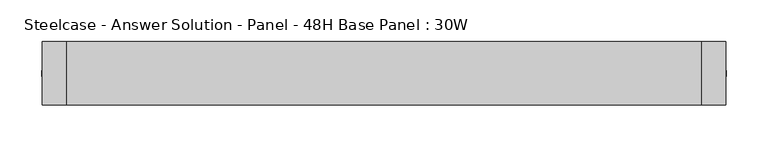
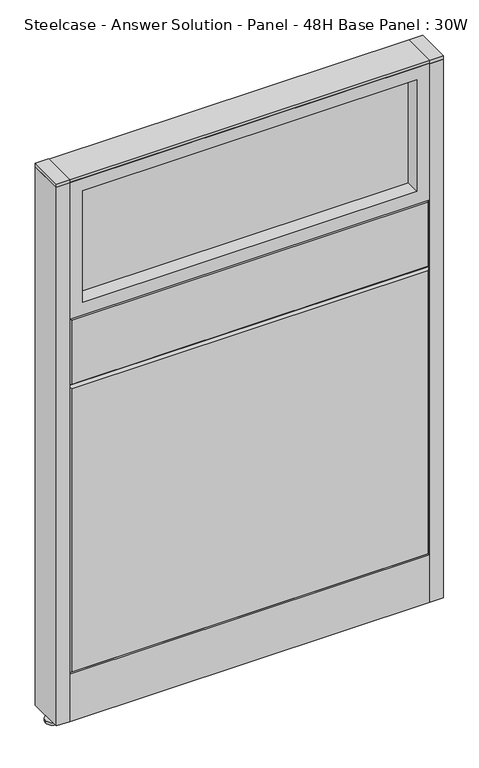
"""IFC4 building model written with IfcOpenShell, lengths in millimetres: furniture geometry, Steelcase - Answer Solution - Panel - 48H Base Panel : 30W."""

from ifc_helpers import new_model, si_unit, point, frame, frame_2d, origin, place, context, project, spatial, polyline, circle_curve, trimmed, segment, composite_curve, outline, extrude, faceted_brep, source, transform, mapped, element, save


def steelcase_answer_solution_panel_48h_base_panel_30w_e16a4ea7(model_context):
    return source(origin(), model_context, "Body", "SolidModel", [
        extrude(outline(composite_curve([segment(trimmed(circle_curve(frame_2d((395.224, 0.0320214)), 5.08), [point((400.304, 0.0320214))], [point((390.144, 0.0320214))], False, "CARTESIAN"), True, "CONTINUOUS"), segment(trimmed(circle_curve(frame_2d((395.224, 0.0320214)), 5.08), [point((390.144, 0.0320214))], [point((400.304, 0.0320214))], False, "CARTESIAN"), True, "CONTINUOUS")], self_intersect=False)), frame((0.0, 0.0, 5.0799671), z_axis=(0.0, 0.0, 1.0), x_axis=(1.0, 0.0, 0.0)), (0.0, 0.0, 1.0), 10.414),
        extrude(outline(composite_curve([segment(trimmed(circle_curve(frame_2d((395.224, 0.0320214)), 15.24), [point((410.464, 0.0320214))], [point((379.984, 0.0320214))], False, "CARTESIAN"), True, "CONTINUOUS"), segment(trimmed(circle_curve(frame_2d((395.224, 0.0320214)), 15.24), [point((379.984, 0.0320214))], [point((410.464, 0.0320214))], False, "CARTESIAN"), True, "CONTINUOUS")], self_intersect=False)), frame((0.0, 0.0, -3.29e-05), z_axis=(0.0, 0.0, 1.0), x_axis=(1.0, 0.0, 0.0)), (0.0, 0.0, 1.0), 5.08),
        extrude(outline(polyline([(409.575, 38.1320408), (409.575, -38.0679592), (381.0, -38.0679592), (381.0, 38.1320408), (409.575, 38.1320408)])), frame((0.0, 0.0, 1218.2348), z_axis=(0.0, 0.0, 1.0), x_axis=(1.0, 0.0, 0.0)), (0.0, 0.0, 1.0), 7.3151671),
        extrude(outline(polyline([(409.575, 38.1320408), (409.575, -38.0679592), (381.0, -38.0679592), (381.0, 38.1320408), (409.575, 38.1320408)])), frame((0.0, 0.0, 15.4939671), z_axis=(0.0, 0.0, 1.0), x_axis=(1.0, 0.0, 0.0)), (0.0, 0.0, 1.0), 1202.7408329),
        extrude(outline(composite_curve([segment(trimmed(circle_curve(frame_2d((-395.224, 0.0320214)), 5.08), [point((-400.304, 0.0320214))], [point((-390.144, 0.0320214))], False, "CARTESIAN"), True, "CONTINUOUS"), segment(trimmed(circle_curve(frame_2d((-395.224, 0.0320214)), 5.08), [point((-390.144, 0.0320214))], [point((-400.304, 0.0320214))], False, "CARTESIAN"), True, "CONTINUOUS")], self_intersect=False)), frame((0.0, 0.0, 5.0799671), z_axis=(0.0, 0.0, 1.0), x_axis=(1.0, 0.0, 0.0)), (0.0, 0.0, 1.0), 10.414),
        extrude(outline(composite_curve([segment(trimmed(circle_curve(frame_2d((-395.224, 0.0320214)), 15.24), [point((-410.464, 0.0320214))], [point((-379.984, 0.0320214))], False, "CARTESIAN"), True, "CONTINUOUS"), segment(trimmed(circle_curve(frame_2d((-395.224, 0.0320214)), 15.24), [point((-379.984, 0.0320214))], [point((-410.464, 0.0320214))], False, "CARTESIAN"), True, "CONTINUOUS")], self_intersect=False)), frame((0.0, 0.0, -3.29e-05), z_axis=(0.0, 0.0, 1.0), x_axis=(1.0, 0.0, 0.0)), (0.0, 0.0, 1.0), 5.08),
        extrude(outline(polyline([(-409.575, 38.1320408), (-381.0, 38.1320408), (-381.0, -38.0679592), (-409.575, -38.0679592), (-409.575, 38.1320408)])), frame((0.0, 0.0, 1218.2348), z_axis=(0.0, 0.0, 1.0), x_axis=(1.0, 0.0, 0.0)), (0.0, 0.0, 1.0), 7.3151671),
        extrude(outline(polyline([(-409.575, 38.1320408), (-381.0, 38.1320408), (-381.0, -38.0679592), (-409.575, -38.0679592), (-409.575, 38.1320408)])), frame((0.0, 0.0, 15.4939671), z_axis=(0.0, 0.0, 1.0), x_axis=(1.0, 0.0, 0.0)), (0.0, 0.0, 1.0), 1202.7408329),
        extrude(outline(polyline([(-353.06, 6.346049), (353.06, 6.346049), (353.06, -6.353951), (-353.06, -6.353951), (-353.06, 6.346049)])), frame((0.0, 0.0, 942.34), z_axis=(0.0, 0.0, 1.0), x_axis=(1.0, 0.0, 0.0)), (0.0, 0.0, 1.0), 248.92),
        extrude(outline(polyline([(1219.2, -381.0), (914.4, -381.0), (914.4, 381.0), (1219.2, 381.0), (1219.2, -381.0)]), holes=[polyline([(1191.26, -353.06), (1191.26, 353.06), (942.34, 353.06), (942.34, -353.06), (1191.26, -353.06)])]), frame((0.0, -38.103951, 0.0), z_axis=(0.0, 1.0, 0.0), x_axis=(0.0, 0.0, 1.0)), (0.0, 0.0, 1.0), 76.2),
        faceted_brep([(-376.174, 38.1635011, 909.574), (376.174, 38.1635011, 909.574), (376.174, 38.1635011, 766.826), (-376.174, 38.1635011, 766.826), (-381.0, 33.3375011, 914.4), (-381.0, 33.3375011, 762.0), (381.0, 33.3375011, 762.0), (381.0, 33.3375011, 914.4)], [[[0, 1, 2, 3]], [[4, 5, 6, 7]], [[4, 7, 1, 0]], [[7, 6, 2, 1]], [[6, 5, 3, 2]], [[5, 4, 0, 3]]]),
        faceted_brep([(-376.174, 38.1635011, 757.174), (376.174, 38.1635011, 757.174), (376.174, 38.1635011, 125.476), (-376.174, 38.1635011, 125.476), (-381.0, 33.3375011, 762.0), (-381.0, 33.3375011, 120.65), (381.0, 33.3375011, 120.65), (381.0, 33.3375011, 762.0)], [[[0, 1, 2, 3]], [[4, 5, 6, 7]], [[4, 7, 1, 0]], [[7, 6, 2, 1]], [[6, 5, 3, 2]], [[5, 4, 0, 3]]]),
        extrude(outline(polyline([(353.06, -6.346049), (-353.06, -6.346049), (-353.06, 6.353951), (353.06, 6.353951), (353.06, -6.346049)])), frame((0.0, 0.0, 942.34), z_axis=(0.0, 0.0, 1.0), x_axis=(1.0, 0.0, 0.0)), (0.0, 0.0, 1.0), 248.92),
        extrude(outline(polyline([(1219.2, 381.0), (1219.2, -381.0), (914.4, -381.0), (914.4, 381.0), (1219.2, 381.0)]), holes=[polyline([(1191.26, 353.06), (942.34, 353.06), (942.34, -353.06), (1191.26, -353.06), (1191.26, 353.06)])]), frame((0.0, -38.096049, 0.0), z_axis=(0.0, 1.0, 0.0), x_axis=(0.0, 0.0, 1.0)), (0.0, 0.0, 1.0), 76.2),
        faceted_brep([(376.174, -38.1635011, 909.574), (-376.174, -38.1635011, 909.574), (-376.174, -38.1635011, 766.826), (376.174, -38.1635011, 766.826), (381.0, -33.3375011, 914.4), (381.0, -33.3375011, 762.0), (-381.0, -33.3375011, 762.0), (-381.0, -33.3375011, 914.4)], [[[0, 1, 2, 3]], [[4, 5, 6, 7]], [[4, 7, 1, 0]], [[7, 6, 2, 1]], [[6, 5, 3, 2]], [[5, 4, 0, 3]]]),
        faceted_brep([(376.174, -38.1635011, 757.174), (-376.174, -38.1635011, 757.174), (-376.174, -38.1635011, 125.476), (376.174, -38.1635011, 125.476), (381.0, -33.3375011, 762.0), (381.0, -33.3375011, 120.65), (-381.0, -33.3375011, 120.65), (-381.0, -33.3375011, 762.0)], [[[0, 1, 2, 3]], [[4, 5, 6, 7]], [[4, 7, 1, 0]], [[7, 6, 2, 1]], [[6, 5, 3, 2]], [[5, 4, 0, 3]]]),
        extrude(outline(polyline([(381.0, 38.1000194), (381.0, -38.1000194), (-381.0, -38.1000194), (-381.0, 38.1000194), (381.0, 38.1000194)])), frame((0.0, 0.0, 1219.2), z_axis=(0.0, 0.0, 1.0), x_axis=(1.0, 0.0, 0.0)), (0.0, 0.0, 1.0), 6.35),
        extrude(outline(polyline([(25.4000011, 119.8575157), (25.4000011, 120.65), (38.1000194, 120.65), (38.1000194, 15.494), (37.3075215, 15.494), (37.3075215, 119.8575157), (25.4000011, 119.8575157)])), frame((-381.0, 0.0, 0.0), z_axis=(1.0, 0.0, 0.0), x_axis=(0.0, 1.0, 0.0)), (0.0, 0.0, 1.0), 762.0),
        extrude(outline(polyline([(-25.4000011, 119.8575157), (-37.3075215, 119.8575157), (-37.3075215, 15.494), (-38.1000194, 15.494), (-38.1000194, 120.65), (-25.4000011, 120.65), (-25.4000011, 119.8575157)])), frame((-381.0, 0.0, 0.0), z_axis=(1.0, 0.0, 0.0), x_axis=(0.0, 1.0, 0.0)), (0.0, 0.0, 1.0), 762.0),
    ])


if __name__ == "__main__":
    model = new_model("IFC4")
    model_context = context("Model", 3, world=origin())
    ifc_project = project(units=[si_unit("LENGTHUNIT", "METRE", prefix="MILLI")], contexts=[model_context])
    site = spatial("IfcSite", under=ifc_project)
    building = spatial("IfcBuilding", under=site)
    placement = place(None, origin())
    steelcase_answer_solution_panel_48h_base_panel_30w_shape = steelcase_answer_solution_panel_48h_base_panel_30w_e16a4ea7(model_context)
    element("IfcFurniture", 1, ObjectType="Steelcase - Answer Solution - Panel - 48H Base Panel : 30W", at=placement, inside=building, context=model_context, shape_type="MappedRepresentation", body=[
        mapped(steelcase_answer_solution_panel_48h_base_panel_30w_shape, transform((0.0, 0.0, 0.0), x_axis=(1.0, 0.0, 0.0), y_axis=(0.0, 1.0, 0.0), z_axis=(0.0, 0.0, 1.0))),
    ])
    save(model, "model.ifc")
